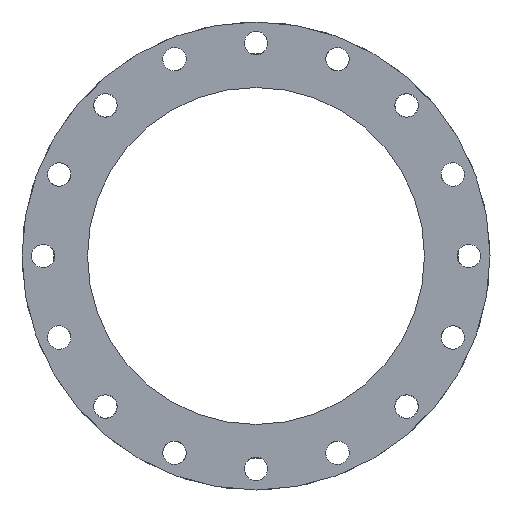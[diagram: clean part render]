
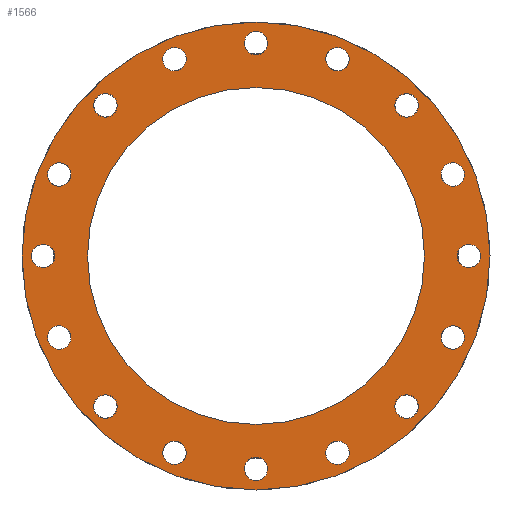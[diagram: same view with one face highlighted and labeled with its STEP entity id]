
A CAD part, left-side view. The second image highlights one B-rep face of the part: STEP entity #1566.
In plain terms, the highlighted planar face has unit normal (-1, 0, 0).
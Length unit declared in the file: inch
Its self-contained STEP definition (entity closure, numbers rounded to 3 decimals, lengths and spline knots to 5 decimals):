
#135=CARTESIAN_POINT('',(-4.0,4.5922,11.08655));
#136=VERTEX_POINT('',#135);
#137=CARTESIAN_POINT('',(-4.0,4.35302,10.50913));
#138=DIRECTION('',(1.,0.0,0.0));
#139=DIRECTION('',(0.0,-0.383,-0.924));
#140=AXIS2_PLACEMENT_3D('',#137,#138,#139);
#141=CIRCLE('',#140,0.625);
#142=EDGE_CURVE('',#136,#136,#141,.T.);
#163=CARTESIAN_POINT('',(-4.0,8.48528,8.48528));
#164=VERTEX_POINT('',#163);
#165=CARTESIAN_POINT('',(-4.0,8.04334,8.04334));
#166=DIRECTION('',(1.,0.0,0.0));
#167=DIRECTION('',(0.0,-0.707,-0.707));
#168=AXIS2_PLACEMENT_3D('',#165,#166,#167);
#169=CIRCLE('',#168,0.625);
#170=EDGE_CURVE('',#164,#164,#169,.T.);
#191=CARTESIAN_POINT('',(-4.0,11.08655,4.5922));
#192=VERTEX_POINT('',#191);
#193=CARTESIAN_POINT('',(-4.0,10.50913,4.35302));
#194=DIRECTION('',(1.,0.0,0.0));
#195=DIRECTION('',(0.0,-0.924,-0.383));
#196=AXIS2_PLACEMENT_3D('',#193,#194,#195);
#197=CIRCLE('',#196,0.625);
#198=EDGE_CURVE('',#192,#192,#197,.T.);
#219=CARTESIAN_POINT('',(-4.0,12.0,0.));
#220=VERTEX_POINT('',#219);
#221=CARTESIAN_POINT('',(-4.0,11.375,0.));
#222=DIRECTION('',(1.0,0.0,0.0));
#223=DIRECTION('',(0.0,-1.0,0.0));
#224=AXIS2_PLACEMENT_3D('',#221,#222,#223);
#225=CIRCLE('',#224,0.625);
#226=EDGE_CURVE('',#220,#220,#225,.T.);
#247=CARTESIAN_POINT('',(-4.0,11.08655,-4.5922));
#248=VERTEX_POINT('',#247);
#249=CARTESIAN_POINT('',(-4.0,10.50913,-4.35302));
#250=DIRECTION('',(1.,0.0,0.0));
#251=DIRECTION('',(0.0,-0.924,0.383));
#252=AXIS2_PLACEMENT_3D('',#249,#250,#251);
#253=CIRCLE('',#252,0.625);
#254=EDGE_CURVE('',#248,#248,#253,.T.);
#275=CARTESIAN_POINT('',(-4.0,8.48528,-8.48528));
#276=VERTEX_POINT('',#275);
#277=CARTESIAN_POINT('',(-4.0,8.04334,-8.04334));
#278=DIRECTION('',(1.0,0.0,0.0));
#279=DIRECTION('',(0.0,-0.707,0.707));
#280=AXIS2_PLACEMENT_3D('',#277,#278,#279);
#281=CIRCLE('',#280,0.625);
#282=EDGE_CURVE('',#276,#276,#281,.T.);
#303=CARTESIAN_POINT('',(-4.0,4.5922,-11.08655));
#304=VERTEX_POINT('',#303);
#305=CARTESIAN_POINT('',(-4.0,4.35302,-10.50913));
#306=DIRECTION('',(1.0,0.0,0.0));
#307=DIRECTION('',(0.0,-0.383,0.924));
#308=AXIS2_PLACEMENT_3D('',#305,#306,#307);
#309=CIRCLE('',#308,0.625);
#310=EDGE_CURVE('',#304,#304,#309,.T.);
#331=CARTESIAN_POINT('',(-4.0,0.,-12.0));
#332=VERTEX_POINT('',#331);
#333=CARTESIAN_POINT('',(-4.0,0.,-11.375));
#334=DIRECTION('',(1.0,0.0,0.0));
#335=DIRECTION('',(0.0,0.0,1.0));
#336=AXIS2_PLACEMENT_3D('',#333,#334,#335);
#337=CIRCLE('',#336,0.625);
#338=EDGE_CURVE('',#332,#332,#337,.T.);
#359=CARTESIAN_POINT('',(-4.0,-4.5922,-11.08655));
#360=VERTEX_POINT('',#359);
#361=CARTESIAN_POINT('',(-4.0,-4.35302,-10.50913));
#362=DIRECTION('',(1.0,0.0,0.0));
#363=DIRECTION('',(0.0,0.383,0.924));
#364=AXIS2_PLACEMENT_3D('',#361,#362,#363);
#365=CIRCLE('',#364,0.625);
#366=EDGE_CURVE('',#360,#360,#365,.T.);
#387=CARTESIAN_POINT('',(-4.0,-8.48528,-8.48528));
#388=VERTEX_POINT('',#387);
#389=CARTESIAN_POINT('',(-4.0,-8.04334,-8.04334));
#390=DIRECTION('',(1.0,0.0,0.0));
#391=DIRECTION('',(0.0,0.707,0.707));
#392=AXIS2_PLACEMENT_3D('',#389,#390,#391);
#393=CIRCLE('',#392,0.625);
#394=EDGE_CURVE('',#388,#388,#393,.T.);
#415=CARTESIAN_POINT('',(-4.0,-11.08655,-4.5922));
#416=VERTEX_POINT('',#415);
#417=CARTESIAN_POINT('',(-4.0,-10.50913,-4.35302));
#418=DIRECTION('',(1.,0.0,0.0));
#419=DIRECTION('',(0.0,0.924,0.383));
#420=AXIS2_PLACEMENT_3D('',#417,#418,#419);
#421=CIRCLE('',#420,0.625);
#422=EDGE_CURVE('',#416,#416,#421,.T.);
#443=CARTESIAN_POINT('',(-4.0,-12.0,0.));
#444=VERTEX_POINT('',#443);
#445=CARTESIAN_POINT('',(-4.0,-11.375,0.));
#446=DIRECTION('',(1.0,0.0,0.0));
#447=DIRECTION('',(0.0,1.0,0.0));
#448=AXIS2_PLACEMENT_3D('',#445,#446,#447);
#449=CIRCLE('',#448,0.625);
#450=EDGE_CURVE('',#444,#444,#449,.T.);
#471=CARTESIAN_POINT('',(-4.0,-11.08655,4.5922));
#472=VERTEX_POINT('',#471);
#473=CARTESIAN_POINT('',(-4.0,-10.50913,4.35302));
#474=DIRECTION('',(1.,0.0,0.0));
#475=DIRECTION('',(0.0,0.924,-0.383));
#476=AXIS2_PLACEMENT_3D('',#473,#474,#475);
#477=CIRCLE('',#476,0.625);
#478=EDGE_CURVE('',#472,#472,#477,.T.);
#499=CARTESIAN_POINT('',(-4.0,-8.48528,8.48528));
#500=VERTEX_POINT('',#499);
#501=CARTESIAN_POINT('',(-4.0,-8.04334,8.04334));
#502=DIRECTION('',(1.,0.0,0.0));
#503=DIRECTION('',(0.0,0.707,-0.707));
#504=AXIS2_PLACEMENT_3D('',#501,#502,#503);
#505=CIRCLE('',#504,0.625);
#506=EDGE_CURVE('',#500,#500,#505,.T.);
#527=CARTESIAN_POINT('',(-4.0,-4.5922,11.08655));
#528=VERTEX_POINT('',#527);
#529=CARTESIAN_POINT('',(-4.0,-4.35302,10.50913));
#530=DIRECTION('',(1.0,0.0,0.0));
#531=DIRECTION('',(0.0,0.383,-0.924));
#532=AXIS2_PLACEMENT_3D('',#529,#530,#531);
#533=CIRCLE('',#532,0.625);
#534=EDGE_CURVE('',#528,#528,#533,.T.);
#555=CARTESIAN_POINT('',(-4.0,0.,12.0));
#556=VERTEX_POINT('',#555);
#557=CARTESIAN_POINT('',(-4.0,0.0,11.375));
#558=DIRECTION('',(1.0,0.0,0.0));
#559=DIRECTION('',(0.0,0.0,-1.0));
#560=AXIS2_PLACEMENT_3D('',#557,#558,#559);
#561=CIRCLE('',#560,0.625);
#562=EDGE_CURVE('',#556,#556,#561,.T.);
#1031=CARTESIAN_POINT('',(-4.,12.5,0.0));
#1032=VERTEX_POINT('',#1031);
#1033=CARTESIAN_POINT('',(-4.,0.0,0.0));
#1034=DIRECTION('',(1.0,0.0,0.0));
#1035=DIRECTION('',(0.0,1.0,0.0));
#1036=AXIS2_PLACEMENT_3D('',#1033,#1034,#1035);
#1037=CIRCLE('',#1036,12.5);
#1038=EDGE_CURVE('',#1032,#1032,#1037,.T.);
#1492=CARTESIAN_POINT('',(-4.,9.0,0.0));
#1493=VERTEX_POINT('',#1492);
#1494=CARTESIAN_POINT('',(-4.,0.0,0.0));
#1495=DIRECTION('',(1.0,0.0,0.0));
#1496=DIRECTION('',(0.0,1.0,0.0));
#1497=AXIS2_PLACEMENT_3D('',#1494,#1495,#1496);
#1498=CIRCLE('',#1497,9.0);
#1499=EDGE_CURVE('',#1493,#1493,#1498,.T.);
#1507=CARTESIAN_POINT('',(-4.0,10.75,0.0));
#1508=DIRECTION('',(-1.0,0.0,0.0));
#1509=DIRECTION('',(0.0,0.0,1.0));
#1510=AXIS2_PLACEMENT_3D('',#1507,#1508,#1509);
#1511=PLANE('',#1510);
#1512=ORIENTED_EDGE('',*,*,#1038,.F.);
#1513=EDGE_LOOP('',(#1512));
#1514=FACE_OUTER_BOUND('',#1513,.T.);
#1515=ORIENTED_EDGE('',*,*,#142,.T.);
#1516=EDGE_LOOP('',(#1515));
#1517=FACE_BOUND('',#1516,.T.);
#1518=ORIENTED_EDGE('',*,*,#170,.T.);
#1519=EDGE_LOOP('',(#1518));
#1520=FACE_BOUND('',#1519,.T.);
#1521=ORIENTED_EDGE('',*,*,#198,.T.);
#1522=EDGE_LOOP('',(#1521));
#1523=FACE_BOUND('',#1522,.T.);
#1524=ORIENTED_EDGE('',*,*,#226,.T.);
#1525=EDGE_LOOP('',(#1524));
#1526=FACE_BOUND('',#1525,.T.);
#1527=ORIENTED_EDGE('',*,*,#254,.T.);
#1528=EDGE_LOOP('',(#1527));
#1529=FACE_BOUND('',#1528,.T.);
#1530=ORIENTED_EDGE('',*,*,#282,.T.);
#1531=EDGE_LOOP('',(#1530));
#1532=FACE_BOUND('',#1531,.T.);
#1533=ORIENTED_EDGE('',*,*,#310,.T.);
#1534=EDGE_LOOP('',(#1533));
#1535=FACE_BOUND('',#1534,.T.);
#1536=ORIENTED_EDGE('',*,*,#338,.T.);
#1537=EDGE_LOOP('',(#1536));
#1538=FACE_BOUND('',#1537,.T.);
#1539=ORIENTED_EDGE('',*,*,#366,.T.);
#1540=EDGE_LOOP('',(#1539));
#1541=FACE_BOUND('',#1540,.T.);
#1542=ORIENTED_EDGE('',*,*,#394,.T.);
#1543=EDGE_LOOP('',(#1542));
#1544=FACE_BOUND('',#1543,.T.);
#1545=ORIENTED_EDGE('',*,*,#422,.T.);
#1546=EDGE_LOOP('',(#1545));
#1547=FACE_BOUND('',#1546,.T.);
#1548=ORIENTED_EDGE('',*,*,#450,.T.);
#1549=EDGE_LOOP('',(#1548));
#1550=FACE_BOUND('',#1549,.T.);
#1551=ORIENTED_EDGE('',*,*,#478,.T.);
#1552=EDGE_LOOP('',(#1551));
#1553=FACE_BOUND('',#1552,.T.);
#1554=ORIENTED_EDGE('',*,*,#506,.T.);
#1555=EDGE_LOOP('',(#1554));
#1556=FACE_BOUND('',#1555,.T.);
#1557=ORIENTED_EDGE('',*,*,#534,.T.);
#1558=EDGE_LOOP('',(#1557));
#1559=FACE_BOUND('',#1558,.T.);
#1560=ORIENTED_EDGE('',*,*,#562,.T.);
#1561=EDGE_LOOP('',(#1560));
#1562=FACE_BOUND('',#1561,.T.);
#1563=ORIENTED_EDGE('',*,*,#1499,.T.);
#1564=EDGE_LOOP('',(#1563));
#1565=FACE_BOUND('',#1564,.T.);
#1566=ADVANCED_FACE('',(#1514,#1517,#1520,#1523,#1526,#1529,#1532,#1535,#1538,#1541,#1544,#1547,#1550,#1553,#1556,#1559,#1562,#1565),#1511,.T.);
